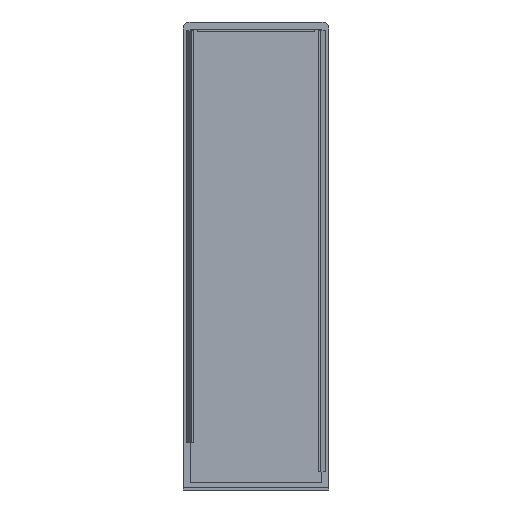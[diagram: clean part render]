
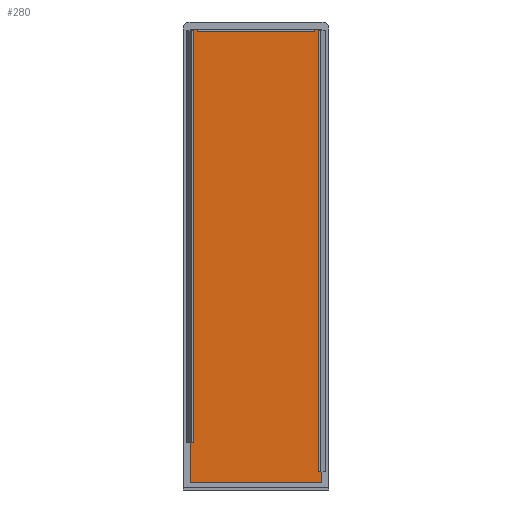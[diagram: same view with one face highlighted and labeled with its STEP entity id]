
A CAD part, left-side view. The second image highlights one B-rep face of the part: STEP entity #280.
In plain terms, the highlighted planar face has unit normal (-1, 0, 0).
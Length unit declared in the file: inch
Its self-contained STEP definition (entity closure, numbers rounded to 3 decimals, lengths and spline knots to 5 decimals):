
#5 = ORIENTED_EDGE ( 'NONE', *, *, #1670, .F. ) ;
#280 = ADVANCED_FACE ( 'NONE', ( #13968, #13593, #9978 ), #593, .F. ) ;
#473 = CARTESIAN_POINT ( 'NONE',  ( 0., 0.1, 6.5 ) ) ;
#552 = LINE ( 'NONE', #9594, #3014 ) ;
#593 = PLANE ( 'NONE',  #12866 ) ;
#608 = ORIENTED_EDGE ( 'NONE', *, *, #12663, .T. ) ;
#684 = CARTESIAN_POINT ( 'NONE',  ( 0., 1.95827, 6.5 ) ) ;
#722 = CARTESIAN_POINT ( 'NONE',  ( 0., 1.8563, 6.46575 ) ) ;
#921 = CARTESIAN_POINT ( 'NONE',  ( 0., 1.94055, 6.48 ) ) ;
#1107 = EDGE_CURVE ( 'NONE', #14038, #5085, #10889, .T. ) ;
#1124 = CARTESIAN_POINT ( 'NONE',  ( 0., 0.11772, 7.06387 ) ) ;
#1211 = ORIENTED_EDGE ( 'NONE', *, *, #4518, .F. ) ;
#1236 = ORIENTED_EDGE ( 'NONE', *, *, #11316, .T. ) ;
#1535 = EDGE_LOOP ( 'NONE', ( #4768, #8729, #5, #1211 ) ) ;
#1578 = CARTESIAN_POINT ( 'NONE',  ( 0., 1.95827, 6.5 ) ) ;
#1670 = EDGE_CURVE ( 'NONE', #11207, #6297, #6193, .T. ) ;
#1810 = VERTEX_POINT ( 'NONE', #684 ) ;
#1922 = VERTEX_POINT ( 'NONE', #11951 ) ;
#1956 = DIRECTION ( 'NONE',  ( 1., 0., 0. ) ) ;
#2041 = VECTOR ( 'NONE', #4728, 39.37008 ) ;
#2135 = ORIENTED_EDGE ( 'NONE', *, *, #8845, .T. ) ;
#2361 = DIRECTION ( 'NONE',  ( 0., 0., 1. ) ) ;
#2364 = VECTOR ( 'NONE', #6719, 39.37008 ) ;
#2479 = LINE ( 'NONE', #1578, #12296 ) ;
#2549 = CARTESIAN_POINT ( 'NONE',  ( 0., 0.20197, 6.46575 ) ) ;
#2866 = ORIENTED_EDGE ( 'NONE', *, *, #8413, .F. ) ;
#3006 = VERTEX_POINT ( 'NONE', #722 ) ;
#3014 = VECTOR ( 'NONE', #2361, 39.37008 ) ;
#3109 = CARTESIAN_POINT ( 'NONE',  ( 0., 0.20197, 6.5 ) ) ;
#3170 = VECTOR ( 'NONE', #7839, 39.37008 ) ;
#3231 = EDGE_CURVE ( 'NONE', #6287, #12852, #3877, .T. ) ;
#3448 = VERTEX_POINT ( 'NONE', #13030 ) ;
#3627 = ORIENTED_EDGE ( 'NONE', *, *, #1107, .T. ) ;
#3665 = CARTESIAN_POINT ( 'NONE',  ( 0., 0.11772, 0.25591 ) ) ;
#3724 = VECTOR ( 'NONE', #12472, 39.37008 ) ;
#3752 = VERTEX_POINT ( 'NONE', #6028 ) ;
#3877 = LINE ( 'NONE', #15148, #6905 ) ;
#4322 = DIRECTION ( 'NONE',  ( 0., 0., 1. ) ) ;
#4327 = LINE ( 'NONE', #1124, #2041 ) ;
#4518 = EDGE_CURVE ( 'NONE', #5896, #11207, #9330, .T. ) ;
#4562 = VECTOR ( 'NONE', #4322, 39.37008 ) ;
#4728 = DIRECTION ( 'NONE',  ( 0., 0., -1. ) ) ;
#4768 = ORIENTED_EDGE ( 'NONE', *, *, #14196, .T. ) ;
#5040 = CARTESIAN_POINT ( 'NONE',  ( 0., 0.1, 6.5 ) ) ;
#5069 = CARTESIAN_POINT ( 'NONE',  ( 0., 0.1, 6.5 ) ) ;
#5085 = VERTEX_POINT ( 'NONE', #14930 ) ;
#5232 = CARTESIAN_POINT ( 'NONE',  ( 0., 0.15197, 0.25591 ) ) ;
#5443 = CARTESIAN_POINT ( 'NONE',  ( 0., 1.9063, 7.06387 ) ) ;
#5896 = VERTEX_POINT ( 'NONE', #5980 ) ;
#5980 = CARTESIAN_POINT ( 'NONE',  ( 0., 1.9063, 6.48 ) ) ;
#6028 = CARTESIAN_POINT ( 'NONE',  ( 0., 1.8563, 6.5 ) ) ;
#6098 = ORIENTED_EDGE ( 'NONE', *, *, #8397, .T. ) ;
#6193 = LINE ( 'NONE', #9835, #10684 ) ;
#6287 = VERTEX_POINT ( 'NONE', #13389 ) ;
#6297 = VERTEX_POINT ( 'NONE', #10984 ) ;
#6417 = LINE ( 'NONE', #9041, #11287 ) ;
#6689 = CARTESIAN_POINT ( 'NONE',  ( 0., 0., 0. ) ) ;
#6719 = DIRECTION ( 'NONE',  ( 0., 0., -1. ) ) ;
#6780 = EDGE_CURVE ( 'NONE', #3752, #1810, #7814, .T. ) ;
#6828 = VECTOR ( 'NONE', #15122, 39.37008 ) ;
#6905 = VECTOR ( 'NONE', #10325, 39.37008 ) ;
#6923 = LINE ( 'NONE', #10995, #15031 ) ;
#6966 = VECTOR ( 'NONE', #15414, 39.37008 ) ;
#7288 = VECTOR ( 'NONE', #10373, 39.37008 ) ;
#7383 = DIRECTION ( 'NONE',  ( 0., -1., 0. ) ) ;
#7493 = LINE ( 'NONE', #5443, #2364 ) ;
#7772 = CARTESIAN_POINT ( 'NONE',  ( 0., 1.9063, 0.66572 ) ) ;
#7814 = LINE ( 'NONE', #5069, #12532 ) ;
#7839 = DIRECTION ( 'NONE',  ( 0., -1., 0. ) ) ;
#8267 = LINE ( 'NONE', #11746, #6966 ) ;
#8347 = CARTESIAN_POINT ( 'NONE',  ( 0., 1.9063, 6.48 ) ) ;
#8397 = EDGE_CURVE ( 'NONE', #1810, #3448, #2479, .T. ) ;
#8413 = EDGE_CURVE ( 'NONE', #15388, #5085, #14764, .T. ) ;
#8729 = ORIENTED_EDGE ( 'NONE', *, *, #12403, .F. ) ;
#8845 = EDGE_CURVE ( 'NONE', #13570, #12852, #13821, .T. ) ;
#8917 = ORIENTED_EDGE ( 'NONE', *, *, #14172, .F. ) ;
#9041 = CARTESIAN_POINT ( 'NONE',  ( 0., 1.8563, 6.5 ) ) ;
#9137 = CARTESIAN_POINT ( 'NONE',  ( 0., 2.05831, 0.66572 ) ) ;
#9193 = DIRECTION ( 'NONE',  ( 0., 0., -1. ) ) ;
#9330 = LINE ( 'NONE', #8347, #13326 ) ;
#9580 = LINE ( 'NONE', #9137, #3170 ) ;
#9594 = CARTESIAN_POINT ( 'NONE',  ( 0., 0.1, 0. ) ) ;
#9610 = ORIENTED_EDGE ( 'NONE', *, *, #11466, .F. ) ;
#9835 = CARTESIAN_POINT ( 'NONE',  ( 0., 1.94055, 7.06387 ) ) ;
#9978 = FACE_OUTER_BOUND ( 'NONE', #11799, .T. ) ;
#10325 = DIRECTION ( 'NONE',  ( 0., 0., -1. ) ) ;
#10373 = DIRECTION ( 'NONE',  ( 0., -1., 0. ) ) ;
#10628 = ORIENTED_EDGE ( 'NONE', *, *, #14948, .T. ) ;
#10684 = VECTOR ( 'NONE', #12035, 39.37008 ) ;
#10810 = EDGE_CURVE ( 'NONE', #13688, #14038, #552, .T. ) ;
#10889 = LINE ( 'NONE', #5040, #3724 ) ;
#10984 = CARTESIAN_POINT ( 'NONE',  ( 0., 1.94055, 0.66572 ) ) ;
#10995 = CARTESIAN_POINT ( 'NONE',  ( 0., 2.05827, 0.1 ) ) ;
#11207 = VERTEX_POINT ( 'NONE', #921 ) ;
#11243 = CARTESIAN_POINT ( 'NONE',  ( 0., 0.1, 0.1 ) ) ;
#11287 = VECTOR ( 'NONE', #15068, 39.37008 ) ;
#11316 = EDGE_CURVE ( 'NONE', #1922, #13570, #4327, .T. ) ;
#11466 = EDGE_CURVE ( 'NONE', #3752, #3006, #6417, .T. ) ;
#11698 = DIRECTION ( 'NONE',  ( 0., 1., 0. ) ) ;
#11746 = CARTESIAN_POINT ( 'NONE',  ( 0., 0.15197, 6.48 ) ) ;
#11799 = EDGE_LOOP ( 'NONE', ( #9610, #13449, #6098, #10628, #12075, #3627, #2866, #8917 ) ) ;
#11951 = CARTESIAN_POINT ( 'NONE',  ( 0., 0.11772, 6.48 ) ) ;
#12035 = DIRECTION ( 'NONE',  ( 0., 0., -1. ) ) ;
#12075 = ORIENTED_EDGE ( 'NONE', *, *, #10810, .T. ) ;
#12296 = VECTOR ( 'NONE', #12617, 39.37008 ) ;
#12403 = EDGE_CURVE ( 'NONE', #6297, #12976, #9580, .T. ) ;
#12472 = DIRECTION ( 'NONE',  ( 0., 1., 0. ) ) ;
#12492 = CARTESIAN_POINT ( 'NONE',  ( 0., -0.00004, 0.25591 ) ) ;
#12532 = VECTOR ( 'NONE', #13589, 39.37008 ) ;
#12617 = DIRECTION ( 'NONE',  ( 0., 0., -1. ) ) ;
#12663 = EDGE_CURVE ( 'NONE', #6287, #1922, #8267, .T. ) ;
#12852 = VERTEX_POINT ( 'NONE', #5232 ) ;
#12866 = AXIS2_PLACEMENT_3D ( 'NONE', #6689, #1956, #9193 ) ;
#12976 = VERTEX_POINT ( 'NONE', #7772 ) ;
#13030 = CARTESIAN_POINT ( 'NONE',  ( 0., 1.95827, 0.1 ) ) ;
#13209 = EDGE_LOOP ( 'NONE', ( #1236, #2135, #13871, #608 ) ) ;
#13326 = VECTOR ( 'NONE', #11698, 39.37008 ) ;
#13389 = CARTESIAN_POINT ( 'NONE',  ( 0., 0.15197, 6.48 ) ) ;
#13449 = ORIENTED_EDGE ( 'NONE', *, *, #6780, .T. ) ;
#13570 = VERTEX_POINT ( 'NONE', #3665 ) ;
#13589 = DIRECTION ( 'NONE',  ( 0., 1., 0. ) ) ;
#13593 = FACE_BOUND ( 'NONE', #13209, .T. ) ;
#13688 = VERTEX_POINT ( 'NONE', #11243 ) ;
#13821 = LINE ( 'NONE', #12492, #6828 ) ;
#13871 = ORIENTED_EDGE ( 'NONE', *, *, #3231, .F. ) ;
#13958 = CARTESIAN_POINT ( 'NONE',  ( 0., 1.8563, 6.46575 ) ) ;
#13968 = FACE_BOUND ( 'NONE', #1535, .T. ) ;
#14038 = VERTEX_POINT ( 'NONE', #473 ) ;
#14172 = EDGE_CURVE ( 'NONE', #3006, #15388, #14854, .T. ) ;
#14196 = EDGE_CURVE ( 'NONE', #5896, #12976, #7493, .T. ) ;
#14764 = LINE ( 'NONE', #3109, #4562 ) ;
#14854 = LINE ( 'NONE', #13958, #7288 ) ;
#14930 = CARTESIAN_POINT ( 'NONE',  ( 0., 0.20197, 6.5 ) ) ;
#14948 = EDGE_CURVE ( 'NONE', #3448, #13688, #6923, .T. ) ;
#15031 = VECTOR ( 'NONE', #7383, 39.37008 ) ;
#15068 = DIRECTION ( 'NONE',  ( 0., 0., -1. ) ) ;
#15122 = DIRECTION ( 'NONE',  ( 0., 1., 0. ) ) ;
#15148 = CARTESIAN_POINT ( 'NONE',  ( 0., 0.15197, 7.06387 ) ) ;
#15388 = VERTEX_POINT ( 'NONE', #2549 ) ;
#15414 = DIRECTION ( 'NONE',  ( 0., -1., 0. ) ) ;
